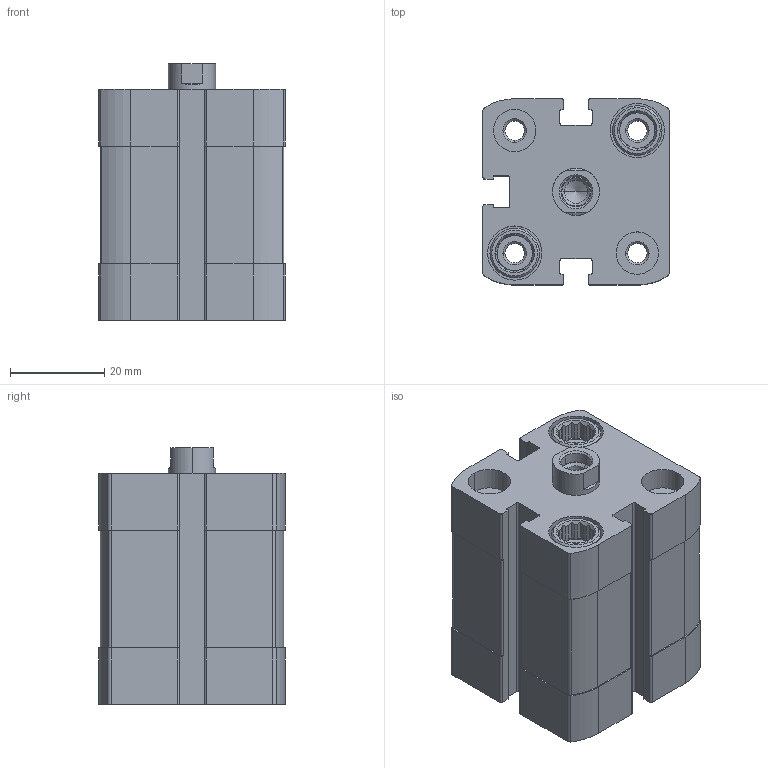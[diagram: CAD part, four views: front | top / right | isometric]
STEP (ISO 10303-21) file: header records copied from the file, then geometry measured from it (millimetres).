
FILE_DESCRIPTION (( 'STEP AP203' ), '1' );
FILE_NAME ('CCN25-10F.STEP', '2017-03-28T17:08:45', ( '' ), ( '' ), 'SwSTEP 2.0', 'SolidWorks 2016', '' );
FILE_SCHEMA (( 'CONFIG_CONTROL_DESIGN' ));
Length unit declared in the file: millimetre
Products named in the file (3): CCN-10---(Z); CCN-10-_(KS); CCN25-10F
Assembly tree (2 placements, depth 2):
  CCN25-10F
    CCN-10---(Z)
    CCN-10-_(KS)
Bounding box: 39.5 x 39.5 x 54.5 mm (x, y, z)
Volume: 59889.2 mm3; surface area: 23080.5 mm2
Topology: 2 solids, 2 shells, 407 faces, 1086 edges, 713 vertices
Faces by surface type: plane 231, cylinder 134, cone 42
Entity records: 13181 total; most frequent: CARTESIAN_POINT 2503, DIRECTION 2228, ORIENTED_EDGE 2168, EDGE_CURVE 1084, AXIS2_PLACEMENT_3D 830, VERTEX_POINT 713, LINE 568, VECTOR 568
